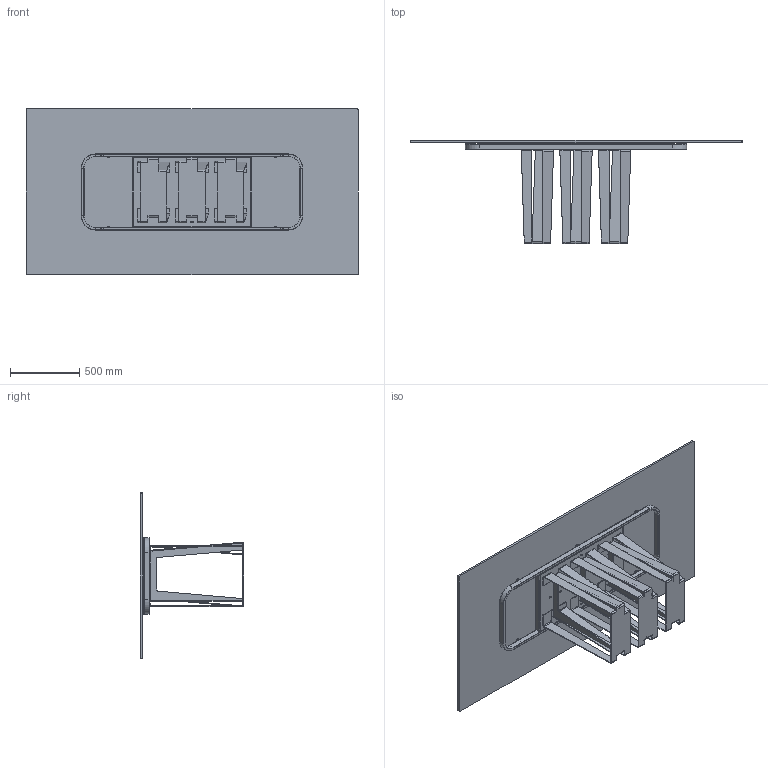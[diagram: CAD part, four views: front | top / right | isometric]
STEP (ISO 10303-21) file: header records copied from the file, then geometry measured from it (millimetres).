
FILE_DESCRIPTION (( 'STEP AP203' ), '1' );
FILE_NAME ('NA23G.STEP', '2024-08-07T14:37:48', ( '' ), ( '' ), 'SwSTEP 2.0', 'SolidWorks 2022', '' );
FILE_SCHEMA (( 'CONFIG_CONTROL_DESIGN' ));
Length unit declared in the file: millimetre
Products named in the file (8): C2XCRXX-00-Piani Rettangolari Cristallo_23 2400x1200; 434070-00-PIEDINO TPV GOMMA NERO D. 30x8max18; NAB000000-00-NARCISO BASE SING. GREZZA; TTAV01_01-01-TELAIO UNIVERSALE X TAVOLI 180 240cm_Default<A macchina>; M8xXXmm_M8x20mm; TTAV01-01-TELAIO UNIVERSALE X TAVOLI 180 240cm; TTAV01_02-01-VASSOIO IRRIGIDIMENTO TELAIO UNIVERSALE; NA23G
Assembly tree (19 placements, depth 3):
  NA23G
    C2XCRXX-00-Piani Rettangolari Cristallo_23 2400x1200
    434070-00-PIEDINO TPV GOMMA NERO D. 30x8max18  x6
    TTAV01-01-TELAIO UNIVERSALE X TAVOLI 180 240cm
      TTAV01_01-01-TELAIO UNIVERSALE X TAVOLI 180 240cm_Default<A macchina>
      TTAV01_02-01-VASSOIO IRRIGIDIMENTO TELAIO UNIVERSALE
    NAB000000-00-NARCISO BASE SING. GREZZA  x3
    M8xXXmm_M8x20mm  x6
Bounding box: 2400 x 745 x 1200 mm (x, y, z)
Volume: 54810089.9 mm3; surface area: 10782002.9 mm2
Topology: 34 solids, 34 shells, 1015 faces, 2467 edges, 1514 vertices
Faces by surface type: plane 549, cylinder 278, torus 80, cone 72, bspline 36
Entity records: 17480 total; most frequent: CARTESIAN_POINT 3159, DIRECTION 2808, ORIENTED_EDGE 2694, EDGE_CURVE 1347, AXIS2_PLACEMENT_3D 983, VERTEX_POINT 858, VECTOR 842, LINE 842
